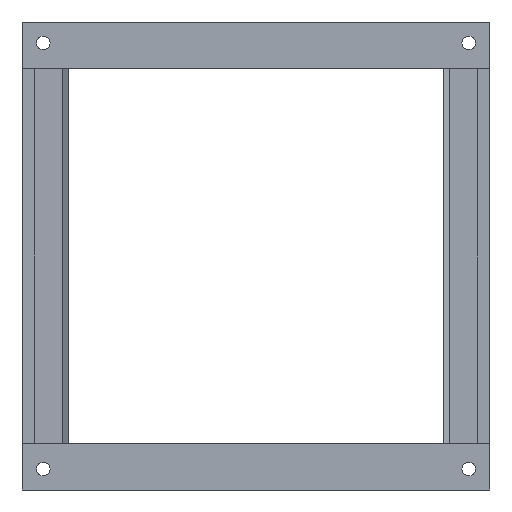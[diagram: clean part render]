
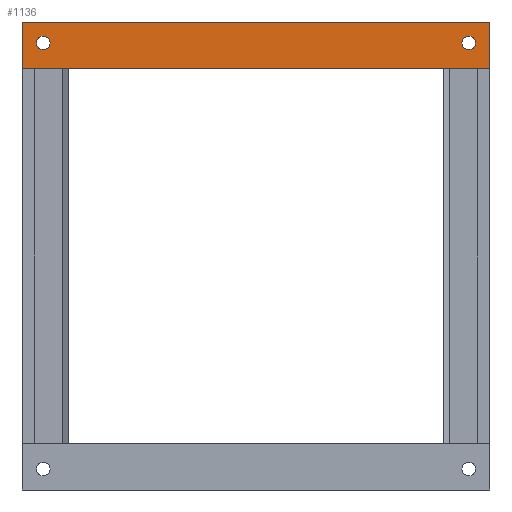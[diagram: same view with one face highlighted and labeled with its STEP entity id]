
A CAD part, front view. The second image highlights one B-rep face of the part: STEP entity #1136.
In plain terms, the highlighted planar face has unit normal (0, -1, 0) as drawn and (0, 1, 0) by its records, which use the part's own axes.
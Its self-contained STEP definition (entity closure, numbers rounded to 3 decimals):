
#2 = ORIENTED_EDGE ( 'NONE', *, *, #1459, .F. ) ;
#12 = EDGE_LOOP ( 'NONE', ( #1460, #1435 ) ) ;
#22 = ORIENTED_EDGE ( 'NONE', *, *, #1391, .F. ) ;
#27 = VERTEX_POINT ( 'NONE', #265 ) ;
#36 = VERTEX_POINT ( 'NONE', #377 ) ;
#47 = EDGE_CURVE ( 'NONE', #36, #27, #514, .T. ) ;
#204 = EDGE_CURVE ( 'NONE', #1366, #1466, #670, .T. ) ;
#265 = CARTESIAN_POINT ( 'NONE',  ( 14.5, 13.7, -72.5 ) ) ;
#266 = CIRCLE ( 'NONE', #267, 2.1 ) ;
#267 = AXIS2_PLACEMENT_3D ( 'NONE', #268, #269, #270 ) ;
#268 = CARTESIAN_POINT ( 'NONE',  ( 6.5, 13.7, -65.9 ) ) ;
#269 = DIRECTION ( 'NONE',  ( 0., -1., 0. ) ) ;
#270 = DIRECTION ( 'NONE',  ( 0., 0., -1. ) ) ;
#289 = CARTESIAN_POINT ( 'NONE',  ( 14.5, 13.7, 72.5 ) ) ;
#319 = CARTESIAN_POINT ( 'NONE',  ( 0., 13.7, 72.5 ) ) ;
#365 = ORIENTED_EDGE ( 'NONE', *, *, #204, .F. ) ;
#377 = CARTESIAN_POINT ( 'NONE',  ( 0., 13.7, -72.5 ) ) ;
#389 = LINE ( 'NONE', #390, #391 ) ;
#390 = CARTESIAN_POINT ( 'NONE',  ( 0., 13.7, 72.5 ) ) ;
#391 = VECTOR ( 'NONE', #392, 1000. ) ;
#392 = DIRECTION ( 'NONE',  ( 1., 0., 0. ) ) ;
#419 = ORIENTED_EDGE ( 'NONE', *, *, #47, .F. ) ;
#441 = CARTESIAN_POINT ( 'NONE',  ( 6.5, 13.7, -68. ) ) ;
#452 = LINE ( 'NONE', #453, #454 ) ;
#453 = CARTESIAN_POINT ( 'NONE',  ( 0., 13.7, 72.5 ) ) ;
#454 = VECTOR ( 'NONE', #458, 1000. ) ;
#458 = DIRECTION ( 'NONE',  ( 0., 0., -1. ) ) ;
#464 = LINE ( 'NONE', #465, #466 ) ;
#465 = CARTESIAN_POINT ( 'NONE',  ( 14.5, 13.7, 72.5 ) ) ;
#466 = VECTOR ( 'NONE', #467, 1000. ) ;
#467 = DIRECTION ( 'NONE',  ( 0., 0., -1. ) ) ;
#481 = CARTESIAN_POINT ( 'NONE',  ( 6.5, 13.7, 63.8 ) ) ;
#489 = FACE_OUTER_BOUND ( 'NONE', #920, .T. ) ;
#490 = FACE_BOUND ( 'NONE', #868, .T. ) ;
#493 = FACE_BOUND ( 'NONE', #12, .T. ) ;
#494 = PLANE ( 'NONE',  #495 ) ;
#495 = AXIS2_PLACEMENT_3D ( 'NONE', #496, #497, #498 ) ;
#496 = CARTESIAN_POINT ( 'NONE',  ( 0., 13.7, 72.5 ) ) ;
#497 = DIRECTION ( 'NONE',  ( 0., 1., 0. ) ) ;
#498 = DIRECTION ( 'NONE',  ( 0., 0., 1. ) ) ;
#514 = LINE ( 'NONE', #515, #516 ) ;
#515 = CARTESIAN_POINT ( 'NONE',  ( 0., 13.7, -72.5 ) ) ;
#516 = VECTOR ( 'NONE', #517, 1000. ) ;
#517 = DIRECTION ( 'NONE',  ( 1., 0., 0. ) ) ;
#518 = CARTESIAN_POINT ( 'NONE',  ( 6.5, 13.7, 68. ) ) ;
#618 = VERTEX_POINT ( 'NONE', #828 ) ;
#670 = CIRCLE ( 'NONE', #671, 2.1 ) ;
#671 = AXIS2_PLACEMENT_3D ( 'NONE', #673, #674, #675 ) ;
#673 = CARTESIAN_POINT ( 'NONE',  ( 6.5, 13.7, 65.9 ) ) ;
#674 = DIRECTION ( 'NONE',  ( 0., 1., 0. ) ) ;
#675 = DIRECTION ( 'NONE',  ( 0., 0., 1. ) ) ;
#707 = CIRCLE ( 'NONE', #710, 2.1 ) ;
#710 = AXIS2_PLACEMENT_3D ( 'NONE', #711, #712, #713 ) ;
#711 = CARTESIAN_POINT ( 'NONE',  ( 6.5, 13.7, 65.9 ) ) ;
#712 = DIRECTION ( 'NONE',  ( 0., 1., 0. ) ) ;
#713 = DIRECTION ( 'NONE',  ( 0., 0., 1. ) ) ;
#763 = EDGE_CURVE ( 'NONE', #618, #1529, #266, .T. ) ;
#774 = CIRCLE ( 'NONE', #775, 2.1 ) ;
#775 = AXIS2_PLACEMENT_3D ( 'NONE', #776, #777, #778 ) ;
#776 = CARTESIAN_POINT ( 'NONE',  ( 6.5, 13.7, -65.9 ) ) ;
#777 = DIRECTION ( 'NONE',  ( 0., -1., 0. ) ) ;
#778 = DIRECTION ( 'NONE',  ( 0., 0., -1. ) ) ;
#828 = CARTESIAN_POINT ( 'NONE',  ( 6.5, 13.7, -63.8 ) ) ;
#868 = EDGE_LOOP ( 'NONE', ( #365, #22 ) ) ;
#920 = EDGE_LOOP ( 'NONE', ( #419, #2, #1380, #1283 ) ) ;
#1082 = EDGE_CURVE ( 'NONE', #1329, #27, #464, .T. ) ;
#1136 = ADVANCED_FACE ( 'NONE', ( #489, #490, #493 ), #494, .T. ) ;
#1283 = ORIENTED_EDGE ( 'NONE', *, *, #1082, .T. ) ;
#1329 = VERTEX_POINT ( 'NONE', #289 ) ;
#1345 = EDGE_CURVE ( 'NONE', #1441, #1329, #389, .T. ) ;
#1366 = VERTEX_POINT ( 'NONE', #518 ) ;
#1380 = ORIENTED_EDGE ( 'NONE', *, *, #1345, .T. ) ;
#1391 = EDGE_CURVE ( 'NONE', #1466, #1366, #707, .T. ) ;
#1401 = EDGE_CURVE ( 'NONE', #1529, #618, #774, .T. ) ;
#1435 = ORIENTED_EDGE ( 'NONE', *, *, #1401, .T. ) ;
#1441 = VERTEX_POINT ( 'NONE', #319 ) ;
#1459 = EDGE_CURVE ( 'NONE', #1441, #36, #452, .T. ) ;
#1460 = ORIENTED_EDGE ( 'NONE', *, *, #763, .T. ) ;
#1466 = VERTEX_POINT ( 'NONE', #481 ) ;
#1529 = VERTEX_POINT ( 'NONE', #441 ) ;
